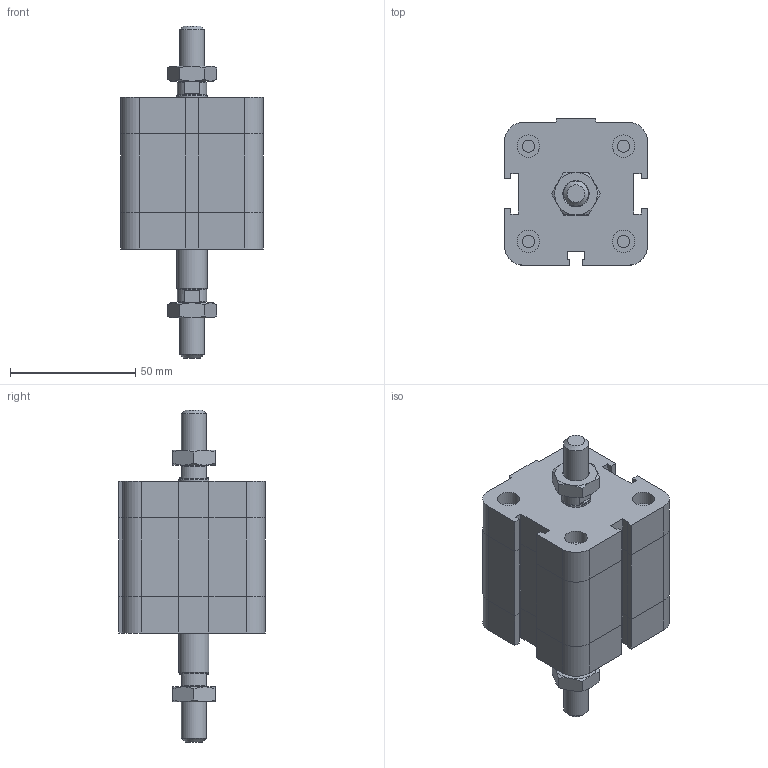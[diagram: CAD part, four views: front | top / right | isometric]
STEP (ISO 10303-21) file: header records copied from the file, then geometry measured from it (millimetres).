
FILE_DESCRIPTION((''),'2;1');
FILE_NAME('I:\Area Tecnica\Disegni\VARIE-3D\Componenti\EUROPE\15##_###_####_04_#\1561_40_0015_04_1.iam.stp','2009-04-20T14:45:32',(''),(''),'Autodesk Inventor 2009','Autodesk Inventor 2009','');
FILE_SCHEMA(('AUTOMOTIVE_DESIGN { 1 0 10303 214 1 1 1 1 }'));
Length unit declared in the file: millimetre
Products named in the file (4): 1561_40_0015_04_1; 1561_40_0015_03_1_C; 1561_40_0015_04_1_S; DBFM10
Assembly tree (4 placements, depth 2):
  1561_40_0015_04_1
    1561_40_0015_03_1_C
    1561_40_0015_04_1_S
    DBFM10  x2
Bounding box: 57 x 58.5 x 132.5 mm (x, y, z)
Volume: 186531.2 mm3; surface area: 34214.4 mm2
Topology: 4 solids, 4 shells, 222 faces, 483 edges, 289 vertices
Faces by surface type: plane 129, cone 35, bspline 33, cylinder 25
Full cylindrical faces by diameter (mm): 4.917 x4, 8.8 x1, 9 x4, 10 x1, 11.7 x2, 12 x1
Entity records: 5450 total; most frequent: CARTESIAN_POINT 1222, DIRECTION 802, ORIENTED_EDGE 772, EDGE_CURVE 386, AXIS2_PLACEMENT_3D 272, EDGE_LOOP 258, VECTOR 258, LINE 258
